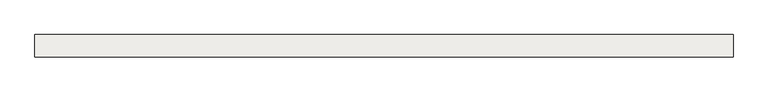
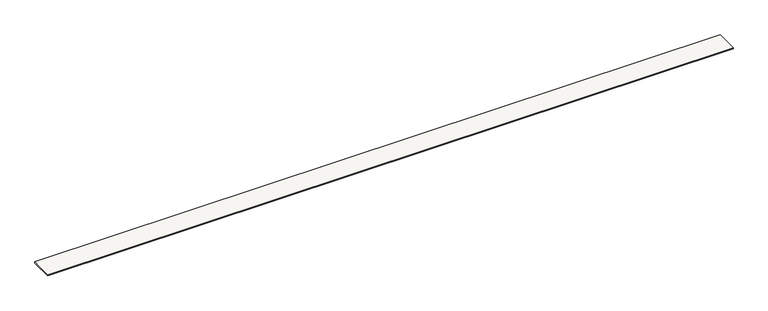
"""IFC4 building model written with IfcOpenShell, lengths in millimetres: slab geometry, Sol-02 - Tablette bois 2cm."""

from ifc_helpers import new_model, si_unit, origin, origin_with_axes, place, context, project, spatial, polyline, outline, extrude, source, transform, mapped, element, save


def slab_cf61f6a3(model_context):
    return source(origin(), model_context, "Body", "SweptSolid", [
        extrude(outline(polyline([(23153.9999799, 11300.0), (23153.9999799, 10980.0), (13197.0000007, 10980.0), (13197.0000007, 11300.0), (23153.9999799, 11300.0)])), origin_with_axes(), (0.0, 0.0, 1.0), 20.0),
    ])


if __name__ == "__main__":
    model = new_model("IFC4")
    model_context = context("Model", 3, world=origin())
    ifc_project = project(units=[si_unit("LENGTHUNIT", "METRE", prefix="MILLI")], contexts=[model_context])
    site = spatial("IfcSite", under=ifc_project)
    building = spatial("IfcBuilding", under=site)
    placement = place(None, origin())
    slab_shape = slab_cf61f6a3(model_context)
    element("IfcSlab", 1, ObjectType="Sol-02 - Tablette bois 2cm", at=placement, inside=building, context=model_context, shape_type="MappedRepresentation", body=[
        mapped(slab_shape, transform((0.0, 0.0, 0.0), x_axis=(1.0, 0.0, 0.0), y_axis=(0.0, 1.0, 0.0), z_axis=(0.0, 0.0, 1.0))),
    ])
    save(model, "model.ifc")
